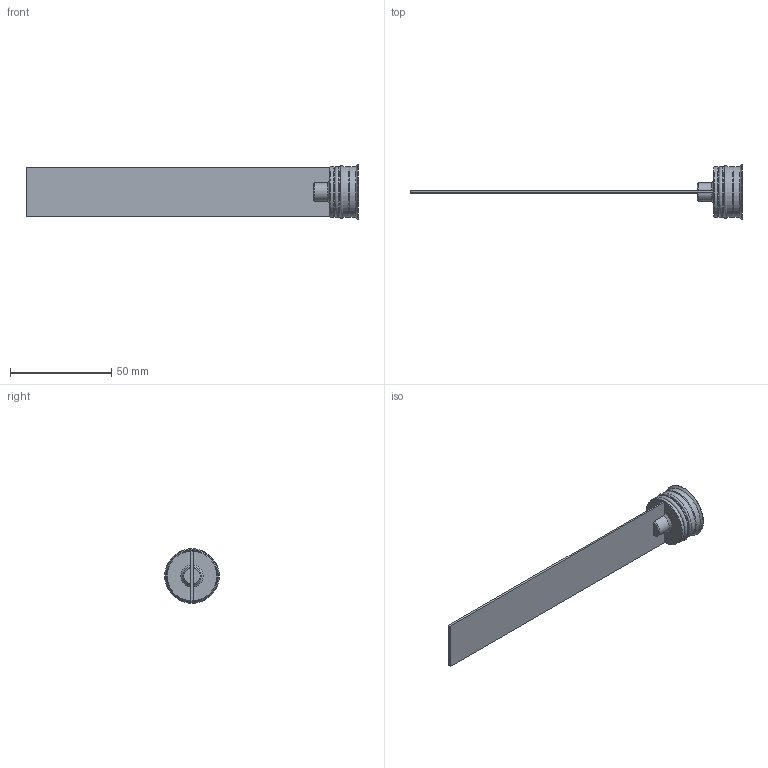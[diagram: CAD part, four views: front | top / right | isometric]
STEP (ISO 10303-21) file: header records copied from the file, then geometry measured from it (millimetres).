
FILE_DESCRIPTION( ( 'STEP AP214' ), '1' );
FILE_NAME( 'p:/temp/worker_257/temp/exporttempdir_4644_408_QVRJK/format_0/RL-25Fx150P (lama 24.5mm).stp', '2021-02-05T19:46:38', ( 'License CC BY-ND 4.0' ), ( 'CADENAS' ), ' ', 'PARTsolutions', ' ' );
FILE_SCHEMA( ( 'AUTOMOTIVE_DESIGN { 1 0 10303 214 1 1 1 1 }' ) );
Length unit declared in the file: millimetre
Products named in the file (1): _RL-25Fx150P (lama 24.5mm)
Bounding box: 164 x 27 x 27 mm (x, y, z)
Volume: 10729.4 mm3; surface area: 10672.5 mm2
Topology: 1 solids, 1 shells, 52 faces, 123 edges, 79 vertices
Faces by surface type: plane 28, cone 11, cylinder 10, torus 3
Full cylindrical faces by diameter (mm): 10 x1, 25 x4, 27 x1
Entity records: 1866 total; most frequent: CARTESIAN_POINT 287, DIRECTION 232, ORIENTED_EDGE 216, EDGE_CURVE 108, AXIS2_PLACEMENT_3D 85, VERTEX_POINT 80, EDGE_LOOP 72, LINE 62
